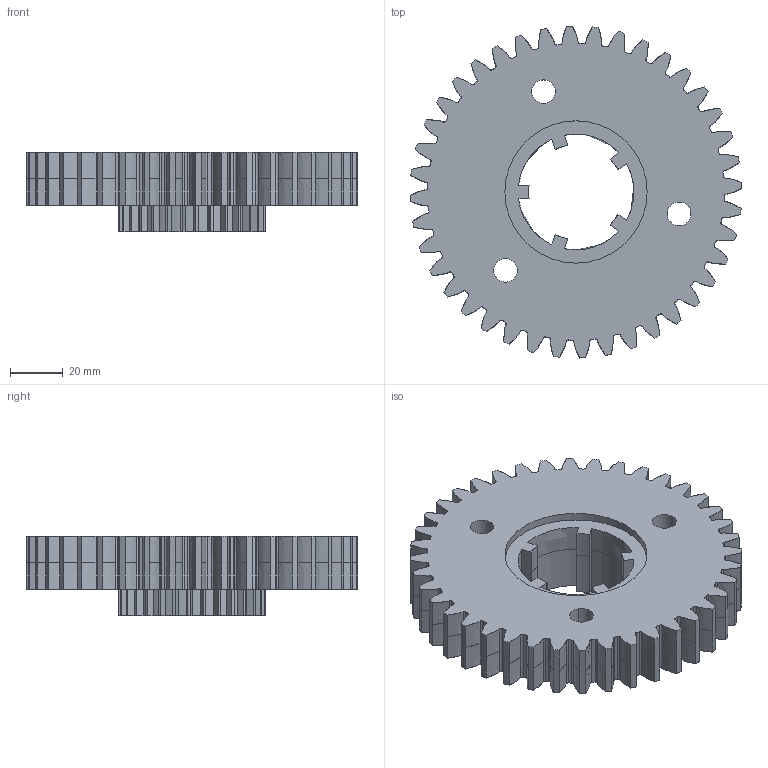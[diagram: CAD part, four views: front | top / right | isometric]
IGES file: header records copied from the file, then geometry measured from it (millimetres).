
Start section: START RECORD GO HERE.
Global section: file name: Pignon double.1.igs; native system: IBM CATIA IGES - CATIA Version 5 Release 18 ; preprocessor: CATIA Version 5 Release 18 ; author: Propriétaire; organization: FUJITSU-79916BB; date: 20090111.191311; units: millimetre
Bounding box: 125.97 x 125.97 x 30 mm (x, y, z)
Surface area: 47286 mm2 (no closed solid volume)
Topology: 0 solids, 0 shells, 532 faces, 3186 edges, 3186 vertices
Faces by surface type: revolution 281, bspline 140, extrusion 90, plane 21
